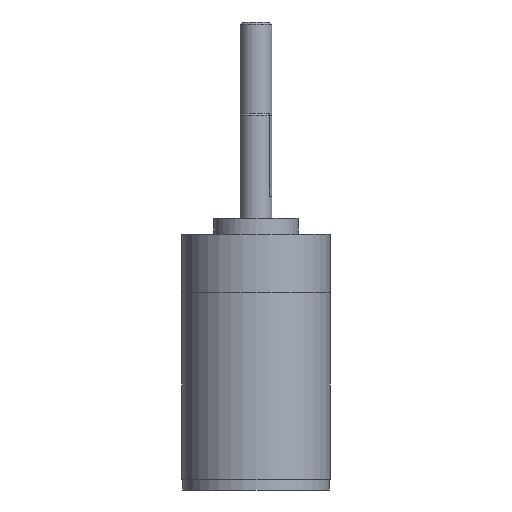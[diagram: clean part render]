
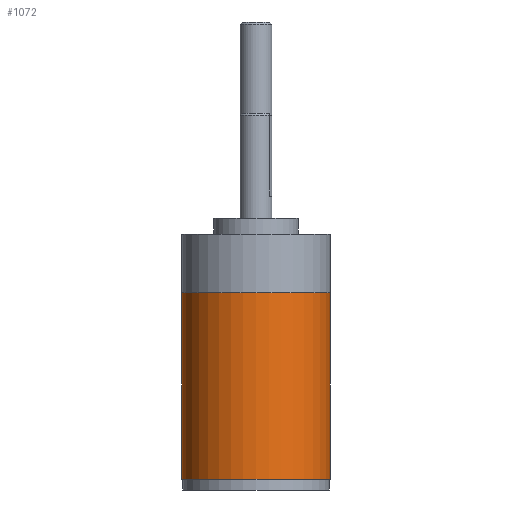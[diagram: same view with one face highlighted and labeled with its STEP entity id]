
A CAD part, left-side view. The second image highlights one B-rep face of the part: STEP entity #1072.
In plain terms, the highlighted cylindrical face has radius 7 mm (diameter 14 mm), a full revolution.
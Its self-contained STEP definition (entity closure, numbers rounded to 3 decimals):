
#1005=CYLINDRICAL_SURFACE('',#3263,7.);
#1072=ADVANCED_FACE('',(#1372,#1373),#1005,.T.);
#1372=FACE_BOUND('',#1573,.T.);
#1373=FACE_BOUND('',#1574,.T.);
#1573=EDGE_LOOP('',(#1880));
#1574=EDGE_LOOP('',(#1881));
#1880=ORIENTED_EDGE('',*,*,#2781,.F.);
#1881=ORIENTED_EDGE('',*,*,#2790,.T.);
#2526=VERTEX_POINT('',#4153);
#2535=VERTEX_POINT('',#4176);
#2781=EDGE_CURVE('',#2526,#2526,#3113,.T.);
#2790=EDGE_CURVE('',#2535,#2535,#3122,.T.);
#3113=CIRCLE('',#3247,7.);
#3122=CIRCLE('',#3261,7.);
#3247=AXIS2_PLACEMENT_3D('',#4152,#3544,#3545);
#3261=AXIS2_PLACEMENT_3D('',#4175,#3572,#3573);
#3263=AXIS2_PLACEMENT_3D('',#4178,#3576,#3577);
#3544=DIRECTION('',(0.,0.,-1.));
#3545=DIRECTION('',(1.,0.,0.));
#3572=DIRECTION('',(0.,0.,-1.));
#3573=DIRECTION('',(1.,0.,0.));
#3576=DIRECTION('',(0.,0.,1.));
#3577=DIRECTION('',(1.,0.,0.));
#4152=CARTESIAN_POINT('',(0.,0.,1.));
#4153=CARTESIAN_POINT('',(7.,0.,1.));
#4175=CARTESIAN_POINT('',(0.,0.,18.599));
#4176=CARTESIAN_POINT('',(7.,0.,18.599));
#4178=CARTESIAN_POINT('',(0.,0.,18.6));
